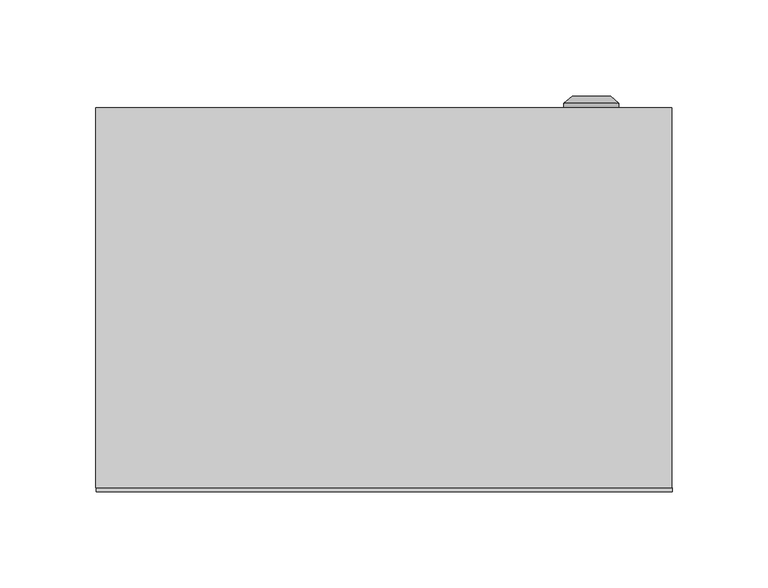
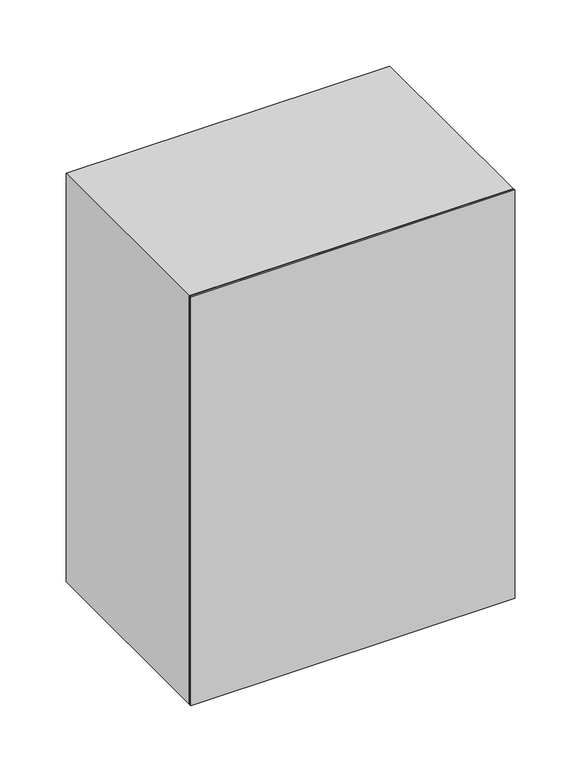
"""IFC4 building model written with IfcOpenShell, lengths in millimetres: proxy geometry, ЩМП : ЩМП-4.3.2-0_400х300х200."""

from ifc_helpers import new_model, si_unit, frame, origin, origin_with_axes, place, context, project, spatial, polyline, circle_curve, outline, extrude, source, transform, mapped, element, save
from ifc_brep_helpers import plane_surface, cylinder_surface, revolved_surface, advanced_brep


def electrical_equipment_5025be6f(model_context):
    return source(origin(), model_context, "Body", "SolidModel", [
        advanced_brep(
        [(93.669873, 200.0, 195.0), (122.330127, 200.0, 195.0), (108.0, 200.0, 195.0), (93.669873, 202.366592, 195.0), (122.330127, 202.366592, 195.0), (98.0, 206.0, 195.0), (118.0, 206.0, 195.0), (106.1080471, 206.0, 195.0), (109.8919529, 206.0, 195.0), (106.1080471, 204.9822294, 195.0), (109.8919529, 204.9822294, 195.0), (108.0, 204.9822294, 195.0)],
        [
            (0, 1, circle_curve(frame((108.0, 200.0, 195.0), z_axis=(0.0, -1.0, 0.0), x_axis=(1.0, 0.0, 0.0)), 14.330127)),
            (1, 2),
            (2, 0),
            (1, 0, circle_curve(frame((108.0, 200.0, 195.0), z_axis=(0.0, -1.0, 0.0), x_axis=(1.0, 0.0, 0.0)), 14.330127)),
            (3, 4, circle_curve(frame((108.0, 202.366592, 195.0), z_axis=(0.0, -1.0, 0.0), x_axis=(1.0, 0.0, 0.0)), 14.330127)),
            (4, 1),
            (0, 3),
            (4, 3, circle_curve(frame((108.0, 202.366592, 195.0), z_axis=(0.0, -1.0, 0.0), x_axis=(1.0, 0.0, 0.0)), 14.330127)),
            (5, 6, circle_curve(frame((108.0, 206.0, 195.0), z_axis=(0.0, -1.0, 0.0), x_axis=(1.0, 0.0, 0.0)), 10.0)),
            (6, 4),
            (3, 5),
            (6, 5, circle_curve(frame((108.0, 206.0, 195.0), z_axis=(0.0, -1.0, 0.0), x_axis=(1.0, 0.0, 0.0)), 10.0)),
            (7, 8, circle_curve(frame((108.0, 206.0, 195.0), z_axis=(0.0, -1.0, 0.0), x_axis=(1.0, 0.0, 0.0)), 1.8919529)),
            (8, 6),
            (5, 7),
            (8, 7, circle_curve(frame((108.0, 206.0, 195.0), z_axis=(0.0, -1.0, 0.0), x_axis=(1.0, 0.0, 0.0)), 1.8919529)),
            (9, 10, circle_curve(frame((108.0, 204.9822294, 195.0), z_axis=(0.0, -1.0, 0.0), x_axis=(1.0, 0.0, 0.0)), 1.8919529)),
            (10, 8),
            (7, 9),
            (10, 9, circle_curve(frame((108.0, 204.9822294, 195.0), z_axis=(0.0, -1.0, 0.0), x_axis=(1.0, 0.0, 0.0)), 1.8919529)),
            (11, 10),
            (9, 11),
        ],
        [
            plane_surface(frame((108.0, 200.0, 195.0), z_axis=(0.0, -1.0, 0.0), x_axis=(1.0, 0.0, 0.0))),
            cylinder_surface(frame((108.0, 213.1348851, 195.0), z_axis=(0.0, 1.0, 0.0), x_axis=(1.0, 0.0, 0.0)), 14.330127),
            revolved_surface(polyline([(122.330127, 202.366592, 195.0), (118.0, 206.0, 195.0)]), (108.0, 213.1348851, 195.0), (0.0, 1.0, 0.0)),
            plane_surface(frame((108.0, 206.0, 195.0), z_axis=(0.0, 1.0, 0.0), x_axis=(1.0, 0.0, 0.0))),
            revolved_surface(polyline([(109.8919529, 206.0, 195.0), (109.8919529, 204.9822294, 195.0)]), (108.0, 213.1348851, 195.0), (0.0, 1.0, 0.0)),
            plane_surface(frame((108.0, 204.9822294, 195.0), z_axis=(0.0, 1.0, 0.0), x_axis=(1.0, 0.0, 0.0))),
        ],
        [
            (0, [[1, 2, 3]]),
            (0, [[4, -3, -2]]),
            (1, [[5, 6, -1, 7]]),
            (1, [[8, -7, -4, -6]]),
            (2, [[9, 10, -5, 11]]),
            (2, [[12, -11, -8, -10]]),
            (3, [[13, 14, -9, 15]]),
            (3, [[16, -15, -12, -14]]),
            (4, [[17, 18, -13, 19]]),
            (4, [[20, -19, -16, -18]]),
            (5, [[21, -17, 22]]),
            (5, [[-22, -20, -21]]),
        ],
    ),
        extrude(outline(polyline([(133.0, 175.0), (-133.0, 175.0), (-133.0, 200.0), (133.0, 200.0), (133.0, 175.0)])), frame((0.0, 0.0, 16.0), z_axis=(0.0, 0.0, 1.0), x_axis=(1.0, 0.0, 0.0)), (0.0, 0.0, 1.0), 368.0),
        extrude(outline(polyline([(400.0, -150.0033905), (0.0, -150.0033905), (0.0, 149.9966095), (400.0, 149.9966095), (400.0, -150.0033905)]), holes=[polyline([(365.0, -118.0033905), (365.0, 117.9966095), (25.0, 117.9966095), (25.0, -118.0033905), (365.0, -118.0033905)])]), frame((0.0, 2.0, 0.0), z_axis=(0.0, 1.0, 0.0), x_axis=(0.0, 0.0, 1.0)), (0.0, 0.0, 1.0), 198.0),
        extrude(outline(polyline([(150.0, 0.0), (-150.0, 0.0), (-150.0, 2.0), (150.0, 2.0), (150.0, 0.0)])), origin_with_axes(), (0.0, 0.0, 1.0), 400.0),
    ])


if __name__ == "__main__":
    model = new_model("IFC4")
    model_context = context("Model", 3, world=origin())
    ifc_project = project(units=[si_unit("LENGTHUNIT", "METRE", prefix="MILLI")], contexts=[model_context])
    site = spatial("IfcSite", under=ifc_project)
    building = spatial("IfcBuilding", under=site)
    placement = place(None, origin())
    electrical_equipment_shape = electrical_equipment_5025be6f(model_context)
    element("IfcBuildingElementProxy", 1, Name="ЩМП : ЩМП-4.3.2-0_400х300х200", ObjectType="ЩМП : ЩМП-4.3.2-0_400х300х200", at=placement, inside=building, context=model_context, shape_type="MappedRepresentation", body=[
        mapped(electrical_equipment_shape, transform((0.0, 0.0, 0.0), x_axis=(1.0, 0.0, 0.0), y_axis=(0.0, 1.0, 0.0), z_axis=(0.0, 0.0, 1.0))),
    ])
    save(model, "model.ifc")
